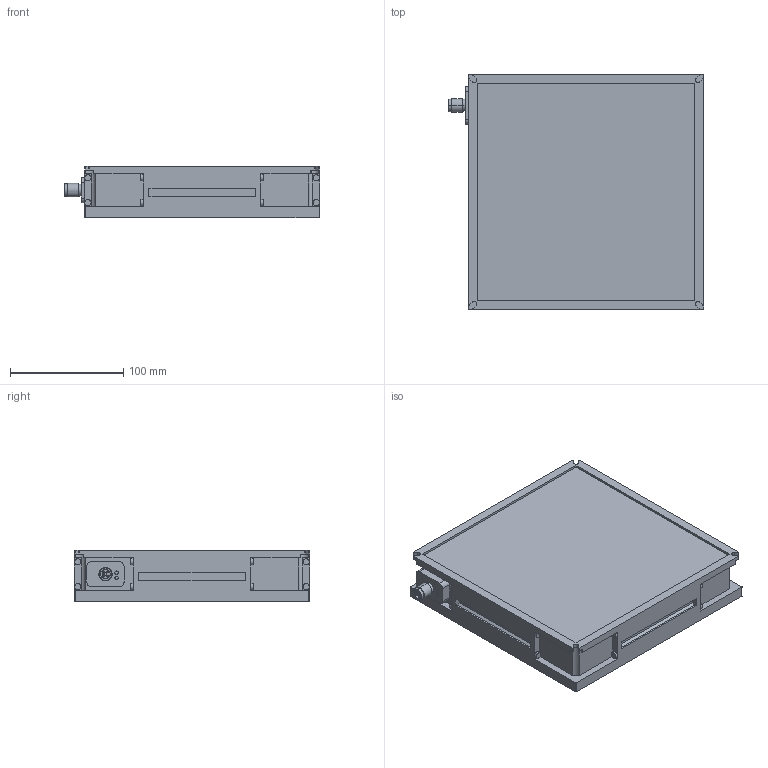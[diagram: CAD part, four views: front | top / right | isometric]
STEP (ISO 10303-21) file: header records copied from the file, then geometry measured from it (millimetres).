
FILE_DESCRIPTION (( 'STEP AP214' ), '1' );
FILE_NAME ('MBACK-xxxx-xxx-M1_CLIENT200x200.STEP', '2022-03-31T15:58:31', ( '' ), ( '' ), 'SwSTEP 2.0', 'SolidWorks 2020', '' );
FILE_SCHEMA (( 'AUTOMOTIVE_DESIGN' ));
Length unit declared in the file: millimetre
Products named in the file (1): MBACK-xxxx-xxx-M1_CLIENT200x200
Bounding box: 225.9 x 208 x 45.5 mm (x, y, z)
Volume: 1745499.4 mm3; surface area: 141482.7 mm2
Topology: 1 solids, 1 shells, 442 faces, 1144 edges, 760 vertices
Faces by surface type: plane 249, cylinder 105, bspline 80, cone 8
Entity records: 17236 total; most frequent: CARTESIAN_POINT 6699, ORIENTED_EDGE 2288, DIRECTION 1936, EDGE_CURVE 1144, VERTEX_POINT 760, LINE 758, VECTOR 758, AXIS2_PLACEMENT_3D 589
